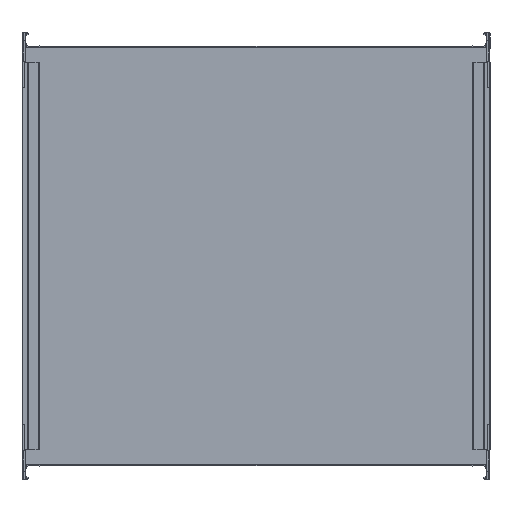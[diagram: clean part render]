
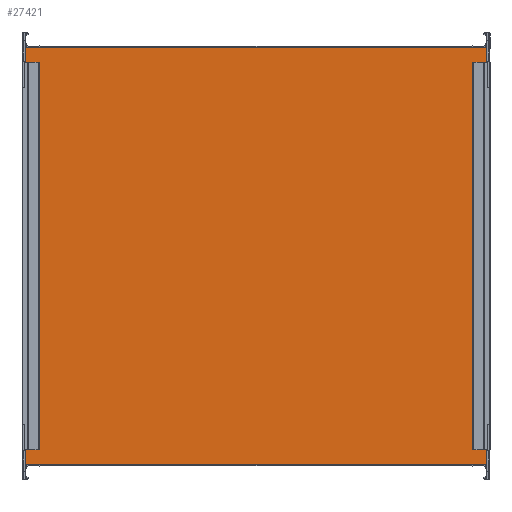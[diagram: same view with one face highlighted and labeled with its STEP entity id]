
A CAD part, front view. The second image highlights one B-rep face of the part: STEP entity #27421.
In plain terms, the highlighted planar face has unit normal (0, -1, 0).
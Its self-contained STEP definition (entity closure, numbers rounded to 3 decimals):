
#3059=FACE_OUTER_BOUND('',#4535,.T.);
#4535=EDGE_LOOP('',(#23339,#23340,#23341,#23342,#23343,#23344,#23345,#23346));
#6582=LINE('',#45702,#9291);
#6988=LINE('',#49392,#9697);
#7004=LINE('',#49426,#9713);
#7005=LINE('',#49428,#9714);
#7006=LINE('',#49429,#9715);
#7007=LINE('',#49431,#9716);
#7008=LINE('',#49433,#9717);
#7009=LINE('',#49434,#9718);
#9291=VECTOR('',#33515,10.);
#9697=VECTOR('',#34105,10.);
#9713=VECTOR('',#34131,10.);
#9714=VECTOR('',#34132,10.);
#9715=VECTOR('',#34133,10.);
#9716=VECTOR('',#34134,10.);
#9717=VECTOR('',#34135,10.);
#9718=VECTOR('',#34136,10.);
#11930=VERTEX_POINT('',#45699);
#11931=VERTEX_POINT('',#45701);
#12421=VERTEX_POINT('',#49381);
#12426=VERTEX_POINT('',#49390);
#12439=VERTEX_POINT('',#49425);
#12440=VERTEX_POINT('',#49427);
#12441=VERTEX_POINT('',#49430);
#12442=VERTEX_POINT('',#49432);
#15382=EDGE_CURVE('',#11930,#11931,#6582,.T.);
#16122=EDGE_CURVE('',#12426,#12421,#6988,.T.);
#16138=EDGE_CURVE('',#12439,#11930,#7004,.T.);
#16139=EDGE_CURVE('',#12439,#12440,#7005,.T.);
#16140=EDGE_CURVE('',#12440,#12421,#7006,.T.);
#16141=EDGE_CURVE('',#12441,#12426,#7007,.T.);
#16142=EDGE_CURVE('',#12441,#12442,#7008,.T.);
#16143=EDGE_CURVE('',#12442,#11931,#7009,.T.);
#23339=ORIENTED_EDGE('',*,*,#16138,.F.);
#23340=ORIENTED_EDGE('',*,*,#16139,.T.);
#23341=ORIENTED_EDGE('',*,*,#16140,.T.);
#23342=ORIENTED_EDGE('',*,*,#16122,.F.);
#23343=ORIENTED_EDGE('',*,*,#16141,.F.);
#23344=ORIENTED_EDGE('',*,*,#16142,.T.);
#23345=ORIENTED_EDGE('',*,*,#16143,.T.);
#23346=ORIENTED_EDGE('',*,*,#15382,.F.);
#25116=PLANE('',#28977);
#27421=ADVANCED_FACE('',(#3059),#25116,.F.);
#28977=AXIS2_PLACEMENT_3D('',#49424,#34129,#34130);
#33515=DIRECTION('',(-1.,0.,0.));
#34105=DIRECTION('',(1.,0.,0.));
#34129=DIRECTION('center_axis',(0.,1.,0.));
#34130=DIRECTION('ref_axis',(0.,0.,1.));
#34131=DIRECTION('',(0.,0.,-1.));
#34132=DIRECTION('',(0.,0.,1.));
#34133=DIRECTION('',(0.,0.,1.));
#34134=DIRECTION('',(0.,0.,1.));
#34135=DIRECTION('',(0.,0.,-1.));
#34136=DIRECTION('',(0.,0.,-1.));
#45699=CARTESIAN_POINT('',(538.536,-314.842,-17.5));
#45701=CARTESIAN_POINT('',(-24.464,-314.842,-17.5));
#45702=CARTESIAN_POINT('',(257.036,-314.842,-17.5));
#49381=CARTESIAN_POINT('',(538.536,-314.842,485.5));
#49390=CARTESIAN_POINT('',(-24.464,-314.842,485.5));
#49392=CARTESIAN_POINT('',(257.036,-314.842,485.5));
#49424=CARTESIAN_POINT('Origin',(257.036,-314.842,234.));
#49425=CARTESIAN_POINT('',(538.536,-314.842,-14.5));
#49426=CARTESIAN_POINT('',(538.536,-314.842,359.));
#49427=CARTESIAN_POINT('',(538.536,-314.842,482.5));
#49428=CARTESIAN_POINT('',(538.536,-314.842,-17.5));
#49429=CARTESIAN_POINT('',(538.536,-314.842,359.));
#49430=CARTESIAN_POINT('',(-24.464,-314.842,482.5));
#49431=CARTESIAN_POINT('',(-24.464,-314.842,359.));
#49432=CARTESIAN_POINT('',(-24.464,-314.842,-14.5));
#49433=CARTESIAN_POINT('',(-24.464,-314.842,485.5));
#49434=CARTESIAN_POINT('',(-24.464,-314.842,359.));
